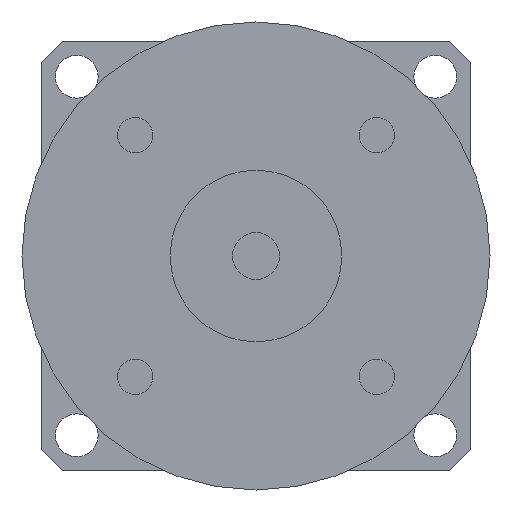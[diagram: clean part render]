
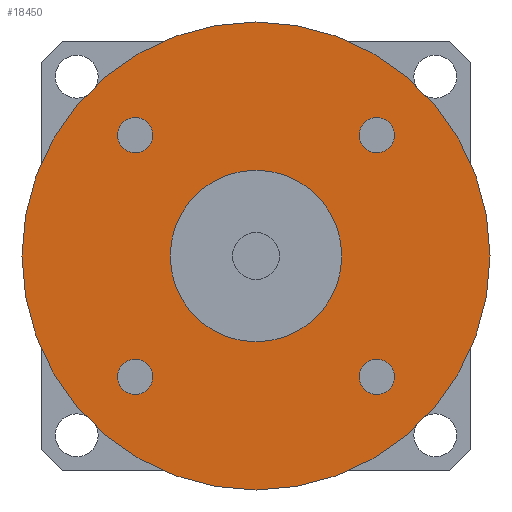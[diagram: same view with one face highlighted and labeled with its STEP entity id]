
A CAD part, left-side view. The second image highlights one B-rep face of the part: STEP entity #18450.
In plain terms, the highlighted planar face has unit normal (-1, 0, 0) as drawn and (0, 0, -1) by its records, which use the part's own axes.
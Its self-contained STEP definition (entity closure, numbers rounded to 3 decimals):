
#11050=CARTESIAN_POINT('',(0.,0.,
-58.));
#11060=DIRECTION('',(0.,0.,1.));
#11070=DIRECTION('',(0.,-1.,0.));
#11080=AXIS2_PLACEMENT_3D('',#11050,#11060,#11070);
#11090=CIRCLE('',#11080,11.);
#11100=CARTESIAN_POINT('',(0.,-11.,-58.));
#11110=VERTEX_POINT('',#11100);
#11120=CARTESIAN_POINT('',(11.,0.,-58.));
#11130=VERTEX_POINT('',#11120);
#11140=EDGE_CURVE('',#11110,#11130,#11090,.T.);
#11410=CARTESIAN_POINT('',(-11.,0.,-58.));
#11420=VERTEX_POINT('',#11410);
#11450=EDGE_CURVE('',#11420,#11110,#11090,.T.);
#12780=CARTESIAN_POINT('',(15.493,-13.243,-58.));
#12790=VERTEX_POINT('',#12780);
#12870=CARTESIAN_POINT('',(15.493,-17.743,-58.));
#12880=VERTEX_POINT('',#12870);
#12910=CARTESIAN_POINT('',(15.493,-15.493,-58.));
#12920=DIRECTION('',(0.,0.,-1.));
#12930=DIRECTION('',(1.,0.,0.));
#12940=AXIS2_PLACEMENT_3D('',#12910,#12920,#12930);
#12950=CIRCLE('',#12940,2.25);
#12960=CARTESIAN_POINT('',(17.743,-15.493,-58.));
#12970=VERTEX_POINT('',#12960);
#12980=EDGE_CURVE('',#12970,#12880,#12950,.T.);
#13000=EDGE_CURVE('',#12790,#12970,#12950,.T.);
#17380=CARTESIAN_POINT('',(30.,0.,-58.));
#17390=VERTEX_POINT('',#17380);
#17420=CARTESIAN_POINT('',(0.,0.,
-58.));
#17430=DIRECTION('',(0.,0.,1.));
#17440=DIRECTION('',(0.,-1.,0.));
#17450=AXIS2_PLACEMENT_3D('',#17420,#17430,#17440);
#17460=CIRCLE('',#17450,30.);
#17470=CARTESIAN_POINT('',(0.,-30.,-58.));
#17480=VERTEX_POINT('',#17470);
#17490=EDGE_CURVE('',#17480,#17390,#17460,.T.);
#17510=CARTESIAN_POINT('',(-30.,0.,-58.));
#17520=VERTEX_POINT('',#17510);
#17530=EDGE_CURVE('',#17520,#17480,#17460,.T.);
#17650=CARTESIAN_POINT('',(0.,0.,
-58.));
#17660=DIRECTION('',(0.,0.,1.));
#17670=DIRECTION('',(-1.,0.,0.));
#17680=AXIS2_PLACEMENT_3D('',#17650,#17660,#17670);
#17690=PLANE('',#17680);
#17700=CARTESIAN_POINT('',(15.493,15.493,-58.));
#17710=DIRECTION('',(0.,0.,-1.));
#17720=DIRECTION('',(0.,1.,0.));
#17730=AXIS2_PLACEMENT_3D('',#17700,#17710,#17720);
#17740=CIRCLE('',#17730,2.25);
#17750=CARTESIAN_POINT('',(15.493,17.743,-58.));
#17760=VERTEX_POINT('',#17750);
#17770=CARTESIAN_POINT('',(17.743,15.493,-58.));
#17780=VERTEX_POINT('',#17770);
#17790=EDGE_CURVE('',#17760,#17780,#17740,.T.);
#17800=ORIENTED_EDGE('',*,*,#17790,.F.);
#17810=CARTESIAN_POINT('',(13.243,15.493,-58.));
#17820=VERTEX_POINT('',#17810);
#17830=EDGE_CURVE('',#17780,#17820,#17740,.T.);
#17840=ORIENTED_EDGE('',*,*,#17830,.F.);
#17850=EDGE_CURVE('',#17820,#17760,#17740,.T.);
#17860=ORIENTED_EDGE('',*,*,#17850,.F.);
#17870=EDGE_LOOP('',(#17860,#17840,#17800));
#17880=FACE_BOUND('',#17870,.T.);
#17890=CARTESIAN_POINT('',(-15.493,15.493,-58.));
#17900=DIRECTION('',(0.,0.,-1.));
#17910=DIRECTION('',(-1.,0.,0.));
#17920=AXIS2_PLACEMENT_3D('',#17890,#17900,#17910);
#17930=CIRCLE('',#17920,2.25);
#17940=CARTESIAN_POINT('',(-17.743,15.493,-58.));
#17950=VERTEX_POINT('',#17940);
#17960=CARTESIAN_POINT('',(-15.493,17.743,-58.));
#17970=VERTEX_POINT('',#17960);
#17980=EDGE_CURVE('',#17950,#17970,#17930,.T.);
#17990=ORIENTED_EDGE('',*,*,#17980,.F.);
#18000=CARTESIAN_POINT('',(-15.493,13.243,-58.));
#18010=VERTEX_POINT('',#18000);
#18020=EDGE_CURVE('',#17970,#18010,#17930,.T.);
#18030=ORIENTED_EDGE('',*,*,#18020,.F.);
#18040=EDGE_CURVE('',#18010,#17950,#17930,.T.);
#18050=ORIENTED_EDGE('',*,*,#18040,.F.);
#18060=EDGE_LOOP('',(#18050,#18030,#17990));
#18070=FACE_BOUND('',#18060,.T.);
#18080=CARTESIAN_POINT('',(-15.493,-15.493,-58.));
#18090=DIRECTION('',(0.,0.,-1.));
#18100=DIRECTION('',(0.,-1.,0.));
#18110=AXIS2_PLACEMENT_3D('',#18080,#18090,#18100);
#18120=CIRCLE('',#18110,2.25);
#18130=CARTESIAN_POINT('',(-15.493,-17.743,-58.));
#18140=VERTEX_POINT('',#18130);
#18150=CARTESIAN_POINT('',(-17.743,-15.493,-58.));
#18160=VERTEX_POINT('',#18150);
#18170=EDGE_CURVE('',#18140,#18160,#18120,.T.);
#18180=ORIENTED_EDGE('',*,*,#18170,.F.);
#18190=CARTESIAN_POINT('',(-13.243,-15.493,-58.));
#18200=VERTEX_POINT('',#18190);
#18210=EDGE_CURVE('',#18160,#18200,#18120,.T.);
#18220=ORIENTED_EDGE('',*,*,#18210,.F.);
#18230=EDGE_CURVE('',#18200,#18140,#18120,.T.);
#18240=ORIENTED_EDGE('',*,*,#18230,.F.);
#18250=EDGE_LOOP('',(#18240,#18220,#18180));
#18260=FACE_BOUND('',#18250,.T.);
#18270=EDGE_CURVE('',#11130,#11420,#11090,.T.);
#18280=ORIENTED_EDGE('',*,*,#18270,.T.);
#18290=ORIENTED_EDGE('',*,*,#11140,.T.);
#18300=ORIENTED_EDGE('',*,*,#11450,.T.);
#18310=EDGE_LOOP('',(#18300,#18290,#18280));
#18320=FACE_BOUND('',#18310,.T.);
#18330=ORIENTED_EDGE('',*,*,#12980,.F.);
#18340=EDGE_CURVE('',#12880,#12790,#12950,.T.);
#18350=ORIENTED_EDGE('',*,*,#18340,.F.);
#18360=ORIENTED_EDGE('',*,*,#13000,.F.);
#18370=EDGE_LOOP('',(#18360,#18350,#18330));
#18380=FACE_BOUND('',#18370,.T.);
#18390=ORIENTED_EDGE('',*,*,#17490,.F.);
#18400=EDGE_CURVE('',#17390,#17520,#17460,.T.);
#18410=ORIENTED_EDGE('',*,*,#18400,.F.);
#18420=ORIENTED_EDGE('',*,*,#17530,.F.);
#18430=EDGE_LOOP('',(#18420,#18410,#18390));
#18440=FACE_OUTER_BOUND('',#18430,.T.);
#18450=ADVANCED_FACE('',(#17880,#18070,#18260,#18320,#18380,#18440),
#17690,.F.);
